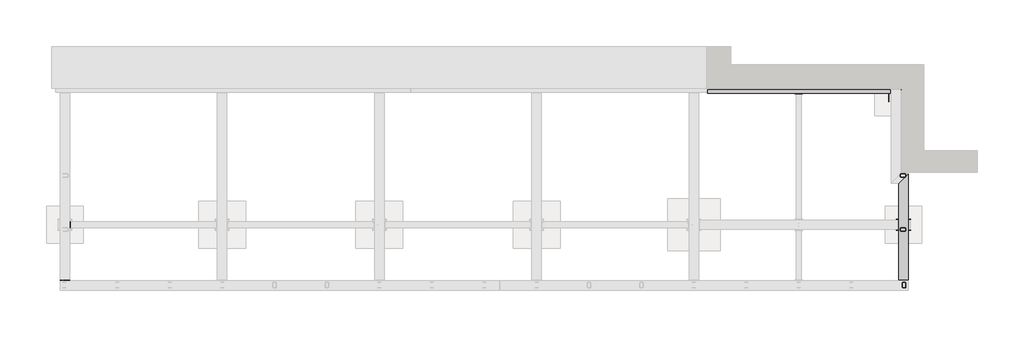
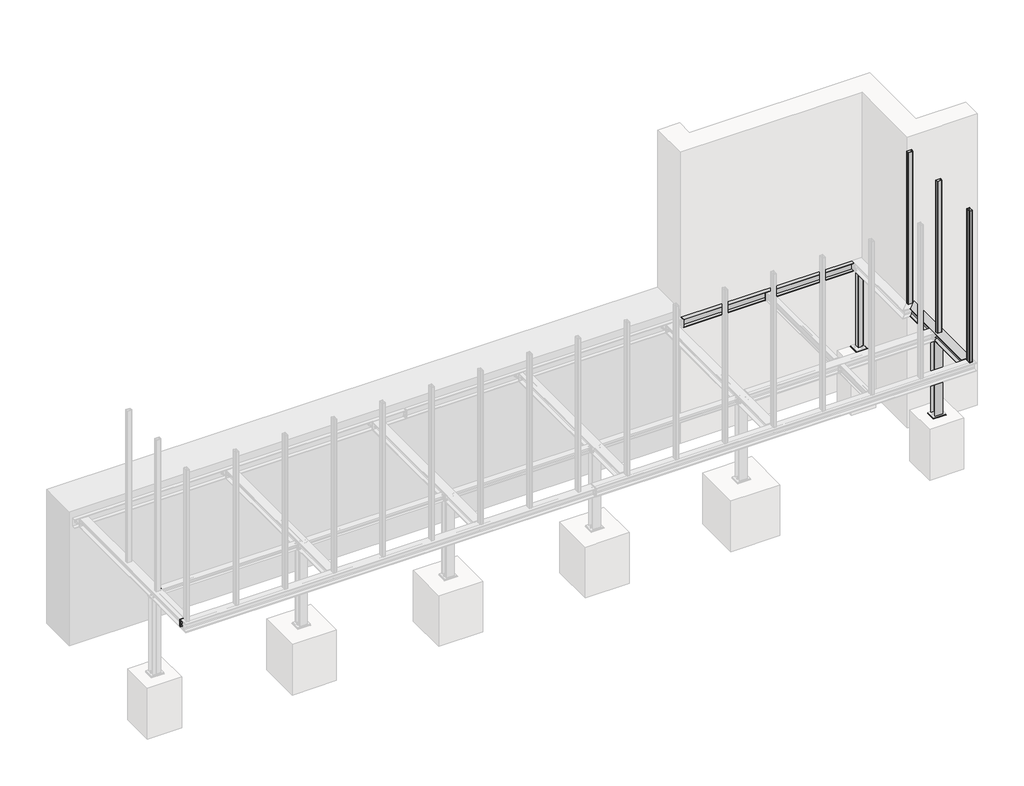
# One storey, part 3 of 31: 7 proxies, 5 columns, 4 plates, 2 beams.
"""IFC4 building model written with IfcOpenShell, lengths in millimetres."""

from ifc_helpers import new_model, si_unit, point, frame, frame_2d, origin, place, context, project, spatial, polyline, circle_curve, ellipse_curve, trimmed, segment, composite_curve, outline, extrude, faceted_brep, element, save
from ifc_brep_helpers import plane_surface, revolved_surface, advanced_brep

model = new_model("IFC4")

# Units and contexts
model_context = context("Model", 3, world=origin())
ifc_project = project(units=[si_unit("LENGTHUNIT", "METRE", prefix="MILLI")], contexts=[model_context])

# Site, building, storey
site = spatial("IfcSite", under=ifc_project)
building = spatial("IfcBuilding", under=site)
storey = spatial("IfcBuildingStorey", under=building, Name="Základy", Elevation=-1200.0)

# Beams
placement = place(None, origin())
element("IfcBeam", 1, ObjectType="HEB180", at=placement, inside=storey, context=model_context, shape_type="AdvancedBrep", body=[
    advanced_brep(
    [(16140.0, 210.0, -160.0), (15960.0, 210.0, -160.0), (15960.0, 210.0, -174.0), (16030.75, 210.0, -174.0), (16045.75, 210.0, -189.0), (16045.75, 210.0, -311.0), (16030.75, 210.0, -326.0), (15960.0, 210.0, -326.0), (15960.0, 210.0, -340.0), (16140.0, 210.0, -340.0), (16140.0, 210.0, -326.0), (16069.25, 210.0, -326.0), (16054.25, 210.0, -311.0), (16054.25, 210.0, -189.0), (16069.25, 210.0, -174.0), (16140.0, 210.0, -174.0), (16140.0, 2230.0, -160.0), (15960.0, 2050.0, -160.0), (15960.0, 2050.0, -174.0), (16030.75, 2120.75, -174.0), (16045.75, 2135.75, -189.0), (16045.75, 2135.75, -311.0), (16030.75, 2120.75, -326.0), (15960.0, 2050.0, -326.0), (15960.0, 2050.0, -340.0), (16140.0, 2230.0, -340.0), (16140.0, 2230.0, -326.0), (16069.25, 2159.25, -326.0), (16054.25, 2144.25, -311.0), (16054.25, 2144.25, -189.0), (16069.25, 2159.25, -174.0), (16140.0, 2230.0, -174.0)],
    [
        (0, 1),
        (1, 2),
        (2, 3),
        (3, 4, circle_curve(frame((16030.75, 210.0, -189.0), z_axis=(0.0, 1.0, 0.0), x_axis=(-1.0, 0.0, 0.0)), 15.0)),
        (4, 5),
        (5, 6, circle_curve(frame((16030.75, 210.0, -311.0), z_axis=(0.0, 1.0, 0.0), x_axis=(-1.0, 0.0, 0.0)), 15.0)),
        (6, 7),
        (7, 8),
        (8, 9),
        (9, 10),
        (10, 11),
        (11, 12, circle_curve(frame((16069.25, 210.0, -311.0), z_axis=(0.0, 1.0, 0.0), x_axis=(-1.0, 0.0, 0.0)), 15.0)),
        (12, 13),
        (13, 14, circle_curve(frame((16069.25, 210.0, -189.0), z_axis=(0.0, 1.0, 0.0), x_axis=(-1.0, 0.0, 0.0)), 15.0)),
        (14, 15),
        (15, 0),
        (0, 16),
        (16, 17),
        (17, 1),
        (17, 18),
        (18, 2),
        (18, 19),
        (19, 3),
        (19, 20, ellipse_curve(frame((16030.75, 2120.75, -189.0), z_axis=(-0.7071067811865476, 0.7071067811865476, 0.0), x_axis=(0.7071067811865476, 0.7071067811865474, 0.0)), 21.2132034, 15.0)),
        (20, 4),
        (20, 21),
        (21, 5),
        (21, 22, ellipse_curve(frame((16030.75, 2120.75, -311.0), z_axis=(-0.7071067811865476, 0.7071067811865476, 0.0), x_axis=(0.7071067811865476, 0.7071067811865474, 0.0)), 21.2132034, 15.0)),
        (22, 6),
        (22, 23),
        (23, 7),
        (23, 24),
        (24, 8),
        (24, 25),
        (25, 9),
        (25, 26),
        (26, 10),
        (26, 27),
        (27, 11),
        (27, 28, ellipse_curve(frame((16069.25, 2159.25, -311.0), z_axis=(-0.7071067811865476, 0.7071067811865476, 0.0), x_axis=(0.7071067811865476, 0.7071067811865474, 0.0)), 21.2132034, 15.0)),
        (28, 12),
        (28, 29),
        (29, 13),
        (29, 30, ellipse_curve(frame((16069.25, 2159.25, -189.0), z_axis=(-0.7071067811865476, 0.7071067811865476, 0.0), x_axis=(0.7071067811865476, 0.7071067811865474, 0.0)), 21.2132034, 15.0)),
        (30, 14),
        (30, 31),
        (31, 15),
        (31, 16),
    ],
    [
        plane_surface(frame((16050.0, 210.0, -250.0), z_axis=(0.0, -1.0, 0.0), x_axis=(0.0, 0.0, -1.0))),
        plane_surface(frame((16140.0, 210.0, -160.0), z_axis=(0.0, 0.0, 1.0), x_axis=(0.0, 1.0, 0.0))),
        plane_surface(frame((15960.0, 210.0, -160.0), z_axis=(-1.0, 0.0, 0.0), x_axis=(0.0, 1.0, 0.0))),
        plane_surface(frame((15960.0, 210.0, -174.0), z_axis=(0.0, 0.0, -1.0), x_axis=(0.0, 1.0, 0.0))),
        revolved_surface(polyline([(16015.75, 2135.75, -189.0), (16015.75, 210.0, -189.0)]), (16030.75, 2240.0, -189.0), (0.0, 1.0, 0.0)),
        plane_surface(frame((16045.75, 210.0, -189.0), z_axis=(-1.0, 0.0, 0.0), x_axis=(0.0, 1.0, 0.0))),
        revolved_surface(polyline([(16015.75, 2135.75, -311.0), (16015.75, 210.0, -311.0)]), (16030.75, 2240.0, -311.0), (0.0, 1.0, 0.0)),
        plane_surface(frame((16030.75, 210.0, -326.0), z_axis=(0.0, 0.0, 1.0), x_axis=(0.0, 1.0, 0.0))),
        plane_surface(frame((15960.0, 210.0, -326.0), z_axis=(-1.0, 0.0, 0.0), x_axis=(0.0, 1.0, 0.0))),
        plane_surface(frame((15960.0, 210.0, -340.0), z_axis=(0.0, 0.0, -1.0), x_axis=(0.0, 1.0, 0.0))),
        plane_surface(frame((16140.0, 210.0, -340.0), z_axis=(1.0, 0.0, 0.0), x_axis=(0.0, 1.0, 0.0))),
        plane_surface(frame((16140.0, 210.0, -326.0), z_axis=(0.0, 0.0, 1.0), x_axis=(0.0, 1.0, 0.0))),
        revolved_surface(polyline([(16054.25, 2174.2499999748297, -311.0), (16054.25, 210.0, -311.0)]), (16069.25, 2240.0, -311.0), (0.0, 1.0, 0.0)),
        plane_surface(frame((16054.25, 210.0, -311.0), z_axis=(1.0, 0.0, 0.0), x_axis=(0.0, 1.0, 0.0))),
        revolved_surface(polyline([(16054.25, 2174.2499999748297, -189.0), (16054.25, 210.0, -189.0)]), (16069.25, 2240.0, -189.0), (0.0, 1.0, 0.0)),
        plane_surface(frame((16069.25, 210.0, -174.0), z_axis=(0.0, 0.0, -1.0), x_axis=(0.0, 1.0, 0.0))),
        plane_surface(frame((16140.0, 210.0, -174.0), z_axis=(1.0, 0.0, 0.0), x_axis=(0.0, 1.0, 0.0))),
        plane_surface(frame((16150.0, 2240.0, -360.0), z_axis=(-0.7071067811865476, 0.7071067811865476, 0.0), x_axis=(0.7071067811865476, 0.7071067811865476, 0.0))),
    ],
    [
        (0, [[1, 2, 3, 4, 5, 6, 7, 8, 9, 10, 11, 12, 13, 14, 15, 16]]),
        (1, [[-1, 17, 18, 19]]),
        (2, [[-2, -19, 20, 21]]),
        (3, [[-3, -21, 22, 23]]),
        (4, [[-4, -23, 24, 25]]),
        (5, [[-5, -25, 26, 27]]),
        (6, [[-6, -27, 28, 29]]),
        (7, [[-7, -29, 30, 31]]),
        (8, [[-8, -31, 32, 33]]),
        (9, [[-9, -33, 34, 35]]),
        (10, [[-10, -35, 36, 37]]),
        (11, [[-11, -37, 38, 39]]),
        (12, [[-12, -39, 40, 41]]),
        (13, [[-13, -41, 42, 43]]),
        (14, [[-14, -43, 44, 45]]),
        (15, [[-15, -45, 46, 47]]),
        (16, [[-16, -47, 48, -17]]),
        (17, [[-18, -48, -46, -44, -42, -40, -38, -36, -34, -32, -30, -28, -26, -24, -22, -20]]),
    ],
),
])
element("IfcBeam", 2, ObjectType="UPE180", at=placement, inside=storey, context=model_context, shape_type="SweptSolid", body=[
    extrude(outline(polyline([(3840.0, -160.0), (3840.0, -340.0), (3765.0, -340.0), (3765.0, -329.5), (3834.5, -329.5), (3834.5, -170.5), (3765.0, -170.5), (3765.0, -160.0), (3840.0, -160.0)])), frame((12315.0, 0.0, 0.0), z_axis=(1.0, 0.0, 0.0), x_axis=(0.0, 1.0, 0.0)), (0.0, 0.0, 1.0), 3482.0),
])

# Proxies
element("IfcBuildingElementProxy", 3, Name="PLECH", ObjectType="PLECH", at=placement, inside=storey, context=model_context, shape_type="SweptSolid", body=[
    extrude(outline(polyline([(150.0, 1200.0), (150.0, 1320.0), (160.0, 1320.0), (160.0, 1200.0), (150.0, 1200.0)])), frame((0.0, 0.0, -299.0), z_axis=(0.0, 0.0, 1.0), x_axis=(1.0, 0.0, 0.0)), (0.0, 0.0, 1.0), 98.0),
])
element("IfcBuildingElementProxy", 4, Name="PLECH", ObjectType="PLECH", at=placement, inside=storey, context=model_context, shape_type="SweptSolid", body=[
    extrude(outline(polyline([(140.0, 1200.0), (140.0, 1320.0), (150.0, 1320.0), (150.0, 1200.0), (140.0, 1200.0)])), frame((0.0, 0.0, -332.0), z_axis=(0.0, 0.0, 1.0), x_axis=(1.0, 0.0, 0.0)), (0.0, 0.0, 1.0), 164.0),
])
element("IfcBuildingElementProxy", 5, Name="PLECH", ObjectType="PLECH", at=placement, inside=storey, context=model_context, shape_type="SweptSolid", body=[
    extrude(outline(composite_curve([segment(polyline([(-174.0, 140.0), (-174.0, 79.5)]), True, "CONTINUOUS"), segment(trimmed(circle_curve(frame_2d((-174.0, 54.5)), 25.0), [point((-174.0, 79.5))], [point((-199.0, 54.5))], True, "CARTESIAN"), True, "CONTINUOUS"), segment(polyline([(-199.0, 54.5), (-301.0, 54.5)]), True, "CONTINUOUS"), segment(trimmed(circle_curve(frame_2d((-326.0, 54.5)), 25.0), [point((-301.0, 54.5))], [point((-326.0, 79.5))], True, "CARTESIAN"), True, "CONTINUOUS"), segment(polyline([(-326.0, 79.5), (-326.0, 140.0), (-174.0, 140.0)]), True, "CONTINUOUS")], self_intersect=False)), frame((0.0, 1256.0, 0.0), z_axis=(0.0, 1.0, 0.0), x_axis=(0.0, 0.0, 1.0)), (0.0, 0.0, 1.0), 8.0),
])
element("IfcBuildingElementProxy", 6, Name="PLECH", ObjectType="PLECH", at=placement, inside=storey, context=model_context, shape_type="SweptSolid", body=[
    extrude(outline(polyline([(-40.0, 210.0), (140.0, 210.0), (140.0, 200.0), (-40.0, 200.0), (-40.0, 210.0)])), frame((0.0, 0.0, -332.0), z_axis=(0.0, 0.0, 1.0), x_axis=(1.0, 0.0, 0.0)), (0.0, 0.0, 1.0), 164.0),
])
element("IfcBuildingElementProxy", 7, Name="PLECH", ObjectType="PLECH", at=placement, inside=storey, context=model_context, shape_type="SweptSolid", body=[
    extrude(outline(composite_curve([segment(polyline([(190.0, -174.0), (190.0, -326.0), (124.25, -326.0)]), True, "CONTINUOUS"), segment(trimmed(circle_curve(frame_2d((104.25, -326.0)), 20.0), [point((124.25, -326.0))], [point((104.25, -306.0))], True, "CARTESIAN"), True, "CONTINUOUS"), segment(polyline([(104.25, -306.0), (104.25, -194.0)]), True, "CONTINUOUS"), segment(trimmed(circle_curve(frame_2d((104.25, -174.0)), 20.0), [point((104.25, -194.0))], [point((124.25, -174.0))], True, "CARTESIAN"), True, "CONTINUOUS"), segment(polyline([(124.25, -174.0), (190.0, -174.0)]), True, "CONTINUOUS")], self_intersect=False)), frame((46.0, 0.0, 0.0), z_axis=(1.0, 0.0, 0.0), x_axis=(0.0, 1.0, 0.0)), (0.0, 0.0, 1.0), 8.0),
])
element("IfcBuildingElementProxy", 8, Name="PLECH", ObjectType="PLECH", at=placement, inside=storey, context=model_context, shape_type="SweptSolid", body=[
    extrude(outline(polyline([(-40.0, 200.0), (140.0, 200.0), (140.0, 190.0), (-40.0, 190.0), (-40.0, 200.0)])), frame((0.0, 0.0, -332.0), z_axis=(0.0, 0.0, 1.0), x_axis=(1.0, 0.0, 0.0)), (0.0, 0.0, 1.0), 164.0),
])
element("IfcBuildingElementProxy", 9, Name="Bolt assembly", ObjectType="Bolt assembly", at=placement, inside=storey, context=model_context, shape_type="SweptSolid", body=[
    extrude(outline(composite_curve([segment(trimmed(circle_curve(frame_2d((-290.0, 5.0)), 9.0), [point((-290.0, 14.0))], [point((-290.0, -4.0))], False, "CARTESIAN"), True, "CONTINUOUS"), segment(trimmed(circle_curve(frame_2d((-290.0, 5.0)), 9.0), [point((-290.0, -4.0))], [point((-290.0, 14.0))], False, "CARTESIAN"), True, "CONTINUOUS")], self_intersect=False)), frame((0.0, 190.1, 0.0), z_axis=(0.0, 1.0, 0.0), x_axis=(0.0, 0.0, 1.0)), (0.0, 0.0, 1.0), 10.0),
    extrude(outline(polyline([(-290.0, 18.8564065), (-278.0, 11.9282032), (-278.0, -1.9282032), (-290.0, -8.8564065), (-302.0, -1.9282032), (-302.0, 11.9282032), (-290.0, 18.8564065)])), frame((0.0, 177.0, 0.0), z_axis=(0.0, 1.0, 0.0), x_axis=(0.0, 0.0, 1.0)), (0.0, 0.0, 1.0), 10.0),
    extrude(outline(composite_curve([segment(trimmed(circle_curve(frame_2d((-290.0, 5.0)), 8.0), [point((-290.0, 13.0))], [point((-290.0, -3.0))], False, "CARTESIAN"), True, "CONTINUOUS"), segment(trimmed(circle_curve(frame_2d((-290.0, 5.0)), 8.0), [point((-290.0, -3.0))], [point((-290.0, 13.0))], False, "CARTESIAN"), True, "CONTINUOUS")], self_intersect=False)), frame((0.0, 187.0, 0.0), z_axis=(0.0, 1.0, 0.0), x_axis=(0.0, 0.0, 1.0)), (0.0, 0.0, 1.0), 50.0),
    extrude(outline(composite_curve([segment(trimmed(circle_curve(frame_2d((-290.0, 5.0)), 15.0), [point((-290.0, 20.0))], [point((-290.0, -10.0))], False, "CARTESIAN"), True, "CONTINUOUS"), segment(trimmed(circle_curve(frame_2d((-290.0, 5.0)), 15.0), [point((-290.0, -10.0))], [point((-290.0, 20.0))], False, "CARTESIAN"), True, "CONTINUOUS")], self_intersect=False)), frame((0.0, 187.0, 0.0), z_axis=(0.0, 1.0, 0.0), x_axis=(0.0, 0.0, 1.0)), (0.0, 0.0, 1.0), 3.0),
    extrude(outline(composite_curve([segment(trimmed(circle_curve(frame_2d((-290.0, 5.0)), 15.0), [point((-290.0, 20.0))], [point((-290.0, -10.0))], False, "CARTESIAN"), True, "CONTINUOUS"), segment(trimmed(circle_curve(frame_2d((-290.0, 5.0)), 15.0), [point((-290.0, -10.0))], [point((-290.0, 20.0))], False, "CARTESIAN"), True, "CONTINUOUS")], self_intersect=False)), frame((0.0, 210.0, 0.0), z_axis=(0.0, 1.0, 0.0), x_axis=(0.0, 0.0, 1.0)), (0.0, 0.0, 1.0), 3.0),
    extrude(outline(polyline([(-290.0, 20.4441197), (-276.625, 12.7220599), (-276.625, -2.7220599), (-290.0, -10.4441197), (-303.375, -2.7220599), (-303.375, 12.7220599), (-290.0, 20.4441197)])), frame((0.0, 213.0, 0.0), z_axis=(0.0, 1.0, 0.0), x_axis=(0.0, 0.0, 1.0)), (0.0, 0.0, 1.0), 13.0),
    extrude(outline(composite_curve([segment(trimmed(circle_curve(frame_2d((-290.0, 5.0)), 9.0), [point((-290.0, 14.0))], [point((-290.0, -4.0))], False, "CARTESIAN"), True, "CONTINUOUS"), segment(trimmed(circle_curve(frame_2d((-290.0, 5.0)), 9.0), [point((-290.0, -4.0))], [point((-290.0, 14.0))], False, "CARTESIAN"), True, "CONTINUOUS")], self_intersect=False)), frame((0.0, 199.9, 0.0), z_axis=(0.0, 1.0, 0.0), x_axis=(0.0, 0.0, 1.0)), (0.0, 0.0, 1.0), 10.1),
    extrude(outline(composite_curve([segment(trimmed(circle_curve(frame_2d((-290.0, 95.0)), 9.0), [point((-290.0, 104.0))], [point((-290.0, 86.0))], False, "CARTESIAN"), True, "CONTINUOUS"), segment(trimmed(circle_curve(frame_2d((-290.0, 95.0)), 9.0), [point((-290.0, 86.0))], [point((-290.0, 104.0))], False, "CARTESIAN"), True, "CONTINUOUS")], self_intersect=False)), frame((0.0, 190.1, 0.0), z_axis=(0.0, 1.0, 0.0), x_axis=(0.0, 0.0, 1.0)), (0.0, 0.0, 1.0), 10.0),
    extrude(outline(polyline([(-290.0, 108.8564065), (-278.0, 101.9282032), (-278.0, 88.0717968), (-290.0, 81.1435935), (-302.0, 88.0717968), (-302.0, 101.9282032), (-290.0, 108.8564065)])), frame((0.0, 177.0, 0.0), z_axis=(0.0, 1.0, 0.0), x_axis=(0.0, 0.0, 1.0)), (0.0, 0.0, 1.0), 10.0),
    extrude(outline(composite_curve([segment(trimmed(circle_curve(frame_2d((-290.0, 95.0)), 8.0), [point((-290.0, 103.0))], [point((-290.0, 87.0))], False, "CARTESIAN"), True, "CONTINUOUS"), segment(trimmed(circle_curve(frame_2d((-290.0, 95.0)), 8.0), [point((-290.0, 87.0))], [point((-290.0, 103.0))], False, "CARTESIAN"), True, "CONTINUOUS")], self_intersect=False)), frame((0.0, 187.0, 0.0), z_axis=(0.0, 1.0, 0.0), x_axis=(0.0, 0.0, 1.0)), (0.0, 0.0, 1.0), 50.0),
    extrude(outline(composite_curve([segment(trimmed(circle_curve(frame_2d((-290.0, 95.0)), 15.0), [point((-290.0, 110.0))], [point((-290.0, 80.0))], False, "CARTESIAN"), True, "CONTINUOUS"), segment(trimmed(circle_curve(frame_2d((-290.0, 95.0)), 15.0), [point((-290.0, 80.0))], [point((-290.0, 110.0))], False, "CARTESIAN"), True, "CONTINUOUS")], self_intersect=False)), frame((0.0, 187.0, 0.0), z_axis=(0.0, 1.0, 0.0), x_axis=(0.0, 0.0, 1.0)), (0.0, 0.0, 1.0), 3.0),
    extrude(outline(composite_curve([segment(trimmed(circle_curve(frame_2d((-290.0, 95.0)), 15.0), [point((-290.0, 110.0))], [point((-290.0, 80.0))], False, "CARTESIAN"), True, "CONTINUOUS"), segment(trimmed(circle_curve(frame_2d((-290.0, 95.0)), 15.0), [point((-290.0, 80.0))], [point((-290.0, 110.0))], False, "CARTESIAN"), True, "CONTINUOUS")], self_intersect=False)), frame((0.0, 210.0, 0.0), z_axis=(0.0, 1.0, 0.0), x_axis=(0.0, 0.0, 1.0)), (0.0, 0.0, 1.0), 3.0),
    extrude(outline(polyline([(-290.0, 110.4441197), (-276.625, 102.7220599), (-276.625, 87.2779401), (-290.0, 79.5558803), (-303.375, 87.2779401), (-303.375, 102.7220599), (-290.0, 110.4441197)])), frame((0.0, 213.0, 0.0), z_axis=(0.0, 1.0, 0.0), x_axis=(0.0, 0.0, 1.0)), (0.0, 0.0, 1.0), 13.0),
    extrude(outline(composite_curve([segment(trimmed(circle_curve(frame_2d((-290.0, 95.0)), 9.0), [point((-290.0, 104.0))], [point((-290.0, 86.0))], False, "CARTESIAN"), True, "CONTINUOUS"), segment(trimmed(circle_curve(frame_2d((-290.0, 95.0)), 9.0), [point((-290.0, 86.0))], [point((-290.0, 104.0))], False, "CARTESIAN"), True, "CONTINUOUS")], self_intersect=False)), frame((0.0, 199.9, 0.0), z_axis=(0.0, 1.0, 0.0), x_axis=(0.0, 0.0, 1.0)), (0.0, 0.0, 1.0), 10.1),
    extrude(outline(composite_curve([segment(trimmed(circle_curve(frame_2d((-210.0, 5.0)), 9.0), [point((-210.0, 14.0))], [point((-210.0, -4.0))], False, "CARTESIAN"), True, "CONTINUOUS"), segment(trimmed(circle_curve(frame_2d((-210.0, 5.0)), 9.0), [point((-210.0, -4.0))], [point((-210.0, 14.0))], False, "CARTESIAN"), True, "CONTINUOUS")], self_intersect=False)), frame((0.0, 190.1, 0.0), z_axis=(0.0, 1.0, 0.0), x_axis=(0.0, 0.0, 1.0)), (0.0, 0.0, 1.0), 10.0),
    extrude(outline(polyline([(-210.0, 18.8564065), (-198.0, 11.9282032), (-198.0, -1.9282032), (-210.0, -8.8564065), (-222.0, -1.9282032), (-222.0, 11.9282032), (-210.0, 18.8564065)])), frame((0.0, 177.0, 0.0), z_axis=(0.0, 1.0, 0.0), x_axis=(0.0, 0.0, 1.0)), (0.0, 0.0, 1.0), 10.0),
    extrude(outline(composite_curve([segment(trimmed(circle_curve(frame_2d((-210.0, 5.0)), 8.0), [point((-210.0, 13.0))], [point((-210.0, -3.0))], False, "CARTESIAN"), True, "CONTINUOUS"), segment(trimmed(circle_curve(frame_2d((-210.0, 5.0)), 8.0), [point((-210.0, -3.0))], [point((-210.0, 13.0))], False, "CARTESIAN"), True, "CONTINUOUS")], self_intersect=False)), frame((0.0, 187.0, 0.0), z_axis=(0.0, 1.0, 0.0), x_axis=(0.0, 0.0, 1.0)), (0.0, 0.0, 1.0), 50.0),
    extrude(outline(composite_curve([segment(trimmed(circle_curve(frame_2d((-210.0, 5.0)), 15.0), [point((-210.0, 20.0))], [point((-210.0, -10.0))], False, "CARTESIAN"), True, "CONTINUOUS"), segment(trimmed(circle_curve(frame_2d((-210.0, 5.0)), 15.0), [point((-210.0, -10.0))], [point((-210.0, 20.0))], False, "CARTESIAN"), True, "CONTINUOUS")], self_intersect=False)), frame((0.0, 187.0, 0.0), z_axis=(0.0, 1.0, 0.0), x_axis=(0.0, 0.0, 1.0)), (0.0, 0.0, 1.0), 3.0),
    extrude(outline(composite_curve([segment(trimmed(circle_curve(frame_2d((-210.0, 5.0)), 15.0), [point((-210.0, 20.0))], [point((-210.0, -10.0))], False, "CARTESIAN"), True, "CONTINUOUS"), segment(trimmed(circle_curve(frame_2d((-210.0, 5.0)), 15.0), [point((-210.0, -10.0))], [point((-210.0, 20.0))], False, "CARTESIAN"), True, "CONTINUOUS")], self_intersect=False)), frame((0.0, 210.0, 0.0), z_axis=(0.0, 1.0, 0.0), x_axis=(0.0, 0.0, 1.0)), (0.0, 0.0, 1.0), 3.0),
    extrude(outline(polyline([(-210.0, 20.4441197), (-196.625, 12.7220599), (-196.625, -2.7220599), (-210.0, -10.4441197), (-223.375, -2.7220599), (-223.375, 12.7220599), (-210.0, 20.4441197)])), frame((0.0, 213.0, 0.0), z_axis=(0.0, 1.0, 0.0), x_axis=(0.0, 0.0, 1.0)), (0.0, 0.0, 1.0), 13.0),
    extrude(outline(composite_curve([segment(trimmed(circle_curve(frame_2d((-210.0, 5.0)), 9.0), [point((-210.0, 14.0))], [point((-210.0, -4.0))], False, "CARTESIAN"), True, "CONTINUOUS"), segment(trimmed(circle_curve(frame_2d((-210.0, 5.0)), 9.0), [point((-210.0, -4.0))], [point((-210.0, 14.0))], False, "CARTESIAN"), True, "CONTINUOUS")], self_intersect=False)), frame((0.0, 199.9, 0.0), z_axis=(0.0, 1.0, 0.0), x_axis=(0.0, 0.0, 1.0)), (0.0, 0.0, 1.0), 10.1),
    extrude(outline(composite_curve([segment(trimmed(circle_curve(frame_2d((-210.0, 95.0)), 9.0), [point((-210.0, 104.0))], [point((-210.0, 86.0))], False, "CARTESIAN"), True, "CONTINUOUS"), segment(trimmed(circle_curve(frame_2d((-210.0, 95.0)), 9.0), [point((-210.0, 86.0))], [point((-210.0, 104.0))], False, "CARTESIAN"), True, "CONTINUOUS")], self_intersect=False)), frame((0.0, 190.1, 0.0), z_axis=(0.0, 1.0, 0.0), x_axis=(0.0, 0.0, 1.0)), (0.0, 0.0, 1.0), 10.0),
    extrude(outline(polyline([(-210.0, 108.8564065), (-198.0, 101.9282032), (-198.0, 88.0717968), (-210.0, 81.1435935), (-222.0, 88.0717968), (-222.0, 101.9282032), (-210.0, 108.8564065)])), frame((0.0, 177.0, 0.0), z_axis=(0.0, 1.0, 0.0), x_axis=(0.0, 0.0, 1.0)), (0.0, 0.0, 1.0), 10.0),
    extrude(outline(composite_curve([segment(trimmed(circle_curve(frame_2d((-210.0, 95.0)), 8.0), [point((-210.0, 103.0))], [point((-210.0, 87.0))], False, "CARTESIAN"), True, "CONTINUOUS"), segment(trimmed(circle_curve(frame_2d((-210.0, 95.0)), 8.0), [point((-210.0, 87.0))], [point((-210.0, 103.0))], False, "CARTESIAN"), True, "CONTINUOUS")], self_intersect=False)), frame((0.0, 187.0, 0.0), z_axis=(0.0, 1.0, 0.0), x_axis=(0.0, 0.0, 1.0)), (0.0, 0.0, 1.0), 50.0),
    extrude(outline(composite_curve([segment(trimmed(circle_curve(frame_2d((-210.0, 95.0)), 15.0), [point((-210.0, 110.0))], [point((-210.0, 80.0))], False, "CARTESIAN"), True, "CONTINUOUS"), segment(trimmed(circle_curve(frame_2d((-210.0, 95.0)), 15.0), [point((-210.0, 80.0))], [point((-210.0, 110.0))], False, "CARTESIAN"), True, "CONTINUOUS")], self_intersect=False)), frame((0.0, 187.0, 0.0), z_axis=(0.0, 1.0, 0.0), x_axis=(0.0, 0.0, 1.0)), (0.0, 0.0, 1.0), 3.0),
    extrude(outline(composite_curve([segment(trimmed(circle_curve(frame_2d((-210.0, 95.0)), 15.0), [point((-210.0, 110.0))], [point((-210.0, 80.0))], False, "CARTESIAN"), True, "CONTINUOUS"), segment(trimmed(circle_curve(frame_2d((-210.0, 95.0)), 15.0), [point((-210.0, 80.0))], [point((-210.0, 110.0))], False, "CARTESIAN"), True, "CONTINUOUS")], self_intersect=False)), frame((0.0, 210.0, 0.0), z_axis=(0.0, 1.0, 0.0), x_axis=(0.0, 0.0, 1.0)), (0.0, 0.0, 1.0), 3.0),
    extrude(outline(polyline([(-210.0, 110.4441197), (-196.625, 102.7220599), (-196.625, 87.2779401), (-210.0, 79.5558803), (-223.375, 87.2779401), (-223.375, 102.7220599), (-210.0, 110.4441197)])), frame((0.0, 213.0, 0.0), z_axis=(0.0, 1.0, 0.0), x_axis=(0.0, 0.0, 1.0)), (0.0, 0.0, 1.0), 13.0),
    extrude(outline(composite_curve([segment(trimmed(circle_curve(frame_2d((-210.0, 95.0)), 9.0), [point((-210.0, 104.0))], [point((-210.0, 86.0))], False, "CARTESIAN"), True, "CONTINUOUS"), segment(trimmed(circle_curve(frame_2d((-210.0, 95.0)), 9.0), [point((-210.0, 86.0))], [point((-210.0, 104.0))], False, "CARTESIAN"), True, "CONTINUOUS")], self_intersect=False)), frame((0.0, 199.9, 0.0), z_axis=(0.0, 1.0, 0.0), x_axis=(0.0, 0.0, 1.0)), (0.0, 0.0, 1.0), 10.1),
])

# Columns
element("IfcColumn", 10, ObjectType="RHS100*60*3.2", at=placement, inside=storey, context=model_context, shape_type="SweptSolid", body=[
    extrude(outline(composite_curve([segment(polyline([(16090.0, 1193.6), (16090.0, 1146.4)]), True, "CONTINUOUS"), segment(trimmed(circle_curve(frame_2d((16083.6, 1146.4)), 6.4), [point((16090.0, 1146.4))], [point((16083.6, 1140.0))], False, "CARTESIAN"), True, "CONTINUOUS"), segment(polyline([(16083.6, 1140.0), (15996.4, 1140.0)]), True, "CONTINUOUS"), segment(trimmed(circle_curve(frame_2d((15996.4, 1146.4)), 6.4), [point((15996.4, 1140.0))], [point((15990.0, 1146.4))], False, "CARTESIAN"), True, "CONTINUOUS"), segment(polyline([(15990.0, 1146.4), (15990.0, 1193.6)]), True, "CONTINUOUS"), segment(trimmed(circle_curve(frame_2d((15996.4, 1193.6)), 6.4), [point((15990.0, 1193.6))], [point((15996.4, 1200.0))], False, "CARTESIAN"), True, "CONTINUOUS"), segment(polyline([(15996.4, 1200.0), (16083.6, 1200.0)]), True, "CONTINUOUS"), segment(trimmed(circle_curve(frame_2d((16083.6, 1193.6)), 6.4), [point((16083.6, 1200.0))], [point((16090.0, 1193.6))], False, "CARTESIAN"), True, "CONTINUOUS")], self_intersect=False), holes=[composite_curve([segment(trimmed(circle_curve(frame_2d((16083.6, 1193.6)), 3.2), [point((16086.8, 1193.6))], [point((16083.6, 1196.8))], True, "CARTESIAN"), True, "CONTINUOUS"), segment(polyline([(16083.6, 1196.8), (15996.4, 1196.8)]), True, "CONTINUOUS"), segment(trimmed(circle_curve(frame_2d((15996.4, 1193.6)), 3.2), [point((15996.4, 1196.8))], [point((15993.2, 1193.6))], True, "CARTESIAN"), True, "CONTINUOUS"), segment(polyline([(15993.2, 1193.6), (15993.2, 1146.4)]), True, "CONTINUOUS"), segment(trimmed(circle_curve(frame_2d((15996.4, 1146.4)), 3.2), [point((15993.2, 1146.4))], [point((15996.4, 1143.2))], True, "CARTESIAN"), True, "CONTINUOUS"), segment(polyline([(15996.4, 1143.2), (16083.6, 1143.2)]), True, "CONTINUOUS"), segment(trimmed(circle_curve(frame_2d((16083.6, 1146.4)), 3.2), [point((16083.6, 1143.2))], [point((16086.8, 1146.4))], True, "CARTESIAN"), True, "CONTINUOUS"), segment(polyline([(16086.8, 1146.4), (16086.8, 1193.6)]), True, "CONTINUOUS")], self_intersect=False)]), frame((0.0, 0.0, -160.0), z_axis=(0.0, 0.0, 1.0), x_axis=(1.0, 0.0, 0.0)), (0.0, 0.0, 1.0), 3280.0),
])
element("IfcColumn", 11, ObjectType="RHS100*60*3.2", at=placement, inside=storey, context=model_context, shape_type="SweptSolid", body=[
    extrude(outline(composite_curve([segment(polyline([(16036.4, 160.0), (16083.6, 160.0)]), True, "CONTINUOUS"), segment(trimmed(circle_curve(frame_2d((16083.6, 153.6)), 6.4), [point((16083.6, 160.0))], [point((16090.0, 153.6))], False, "CARTESIAN"), True, "CONTINUOUS"), segment(polyline([(16090.0, 153.6), (16090.0, 66.4)]), True, "CONTINUOUS"), segment(trimmed(circle_curve(frame_2d((16083.6, 66.4)), 6.4), [point((16090.0, 66.4))], [point((16083.6, 60.0))], False, "CARTESIAN"), True, "CONTINUOUS"), segment(polyline([(16083.6, 60.0), (16036.4, 60.0)]), True, "CONTINUOUS"), segment(trimmed(circle_curve(frame_2d((16036.4, 66.4)), 6.4), [point((16036.4, 60.0))], [point((16030.0, 66.4))], False, "CARTESIAN"), True, "CONTINUOUS"), segment(polyline([(16030.0, 66.4), (16030.0, 153.6)]), True, "CONTINUOUS"), segment(trimmed(circle_curve(frame_2d((16036.4, 153.6)), 6.4), [point((16030.0, 153.6))], [point((16036.4, 160.0))], False, "CARTESIAN"), True, "CONTINUOUS")], self_intersect=False), holes=[composite_curve([segment(trimmed(circle_curve(frame_2d((16036.4, 153.6)), 3.2), [point((16036.4, 156.8))], [point((16033.2, 153.6))], True, "CARTESIAN"), True, "CONTINUOUS"), segment(polyline([(16033.2, 153.6), (16033.2, 66.4)]), True, "CONTINUOUS"), segment(trimmed(circle_curve(frame_2d((16036.4, 66.4)), 3.2), [point((16033.2, 66.4))], [point((16036.4, 63.2))], True, "CARTESIAN"), True, "CONTINUOUS"), segment(polyline([(16036.4, 63.2), (16083.6, 63.2)]), True, "CONTINUOUS"), segment(trimmed(circle_curve(frame_2d((16083.6, 66.4)), 3.2), [point((16083.6, 63.2))], [point((16086.8, 66.4))], True, "CARTESIAN"), True, "CONTINUOUS"), segment(polyline([(16086.8, 66.4), (16086.8, 153.6)]), True, "CONTINUOUS"), segment(trimmed(circle_curve(frame_2d((16083.6, 153.6)), 3.2), [point((16086.8, 153.6))], [point((16083.6, 156.8))], True, "CARTESIAN"), True, "CONTINUOUS"), segment(polyline([(16083.6, 156.8), (16036.4, 156.8)]), True, "CONTINUOUS")], self_intersect=False)]), frame((0.0, 0.0, -160.0), z_axis=(0.0, 0.0, 1.0), x_axis=(1.0, 0.0, 0.0)), (0.0, 0.0, 1.0), 3280.0),
])
element("IfcColumn", 12, ObjectType="SHS100*5", at=placement, inside=storey, context=model_context, shape_type="SweptSolid", body=[
    extrude(outline(composite_curve([segment(polyline([(15945.0, 3700.0), (15865.0, 3700.0)]), True, "CONTINUOUS"), segment(trimmed(circle_curve(frame_2d((15865.0, 3710.0)), 10.0), [point((15865.0, 3700.0))], [point((15855.0, 3710.0))], False, "CARTESIAN"), True, "CONTINUOUS"), segment(polyline([(15855.0, 3710.0), (15855.0, 3790.0)]), True, "CONTINUOUS"), segment(trimmed(circle_curve(frame_2d((15865.0, 3790.0)), 10.0), [point((15855.0, 3790.0))], [point((15865.0, 3800.0))], False, "CARTESIAN"), True, "CONTINUOUS"), segment(polyline([(15865.0, 3800.0), (15945.0, 3800.0)]), True, "CONTINUOUS"), segment(trimmed(circle_curve(frame_2d((15945.0, 3790.0)), 10.0), [point((15945.0, 3800.0))], [point((15955.0, 3790.0))], False, "CARTESIAN"), True, "CONTINUOUS"), segment(polyline([(15955.0, 3790.0), (15955.0, 3710.0)]), True, "CONTINUOUS"), segment(trimmed(circle_curve(frame_2d((15945.0, 3710.0)), 10.0), [point((15955.0, 3710.0))], [point((15945.0, 3700.0))], False, "CARTESIAN"), True, "CONTINUOUS")], self_intersect=False), holes=[composite_curve([segment(trimmed(circle_curve(frame_2d((15945.0, 3710.0)), 5.0), [point((15945.0, 3705.0))], [point((15950.0, 3710.0))], True, "CARTESIAN"), True, "CONTINUOUS"), segment(polyline([(15950.0, 3710.0), (15950.0, 3790.0)]), True, "CONTINUOUS"), segment(trimmed(circle_curve(frame_2d((15945.0, 3790.0)), 5.0), [point((15950.0, 3790.0))], [point((15945.0, 3795.0))], True, "CARTESIAN"), True, "CONTINUOUS"), segment(polyline([(15945.0, 3795.0), (15865.0, 3795.0)]), True, "CONTINUOUS"), segment(trimmed(circle_curve(frame_2d((15865.0, 3790.0)), 5.0), [point((15865.0, 3795.0))], [point((15860.0, 3790.0))], True, "CARTESIAN"), True, "CONTINUOUS"), segment(polyline([(15860.0, 3790.0), (15860.0, 3710.0)]), True, "CONTINUOUS"), segment(trimmed(circle_curve(frame_2d((15865.0, 3710.0)), 5.0), [point((15860.0, 3710.0))], [point((15865.0, 3705.0))], True, "CARTESIAN"), True, "CONTINUOUS"), segment(polyline([(15865.0, 3705.0), (15945.0, 3705.0)]), True, "CONTINUOUS")], self_intersect=False)]), frame((0.0, 0.0, -1975.0), z_axis=(0.0, 0.0, 1.0), x_axis=(1.0, 0.0, 0.0)), (0.0, 0.0, 1.0), 1625.0),
])
element("IfcColumn", 13, ObjectType="RHS100*60*3.2", at=placement, inside=storey, context=model_context, shape_type="SweptSolid", body=[
    extrude(outline(composite_curve([segment(polyline([(16090.0, 2223.6), (16090.0, 2176.4)]), True, "CONTINUOUS"), segment(trimmed(circle_curve(frame_2d((16083.6, 2176.4)), 6.4), [point((16090.0, 2176.4))], [point((16083.6, 2170.0))], False, "CARTESIAN"), True, "CONTINUOUS"), segment(polyline([(16083.6, 2170.0), (15996.4, 2170.0)]), True, "CONTINUOUS"), segment(trimmed(circle_curve(frame_2d((15996.4, 2176.4)), 6.4), [point((15996.4, 2170.0))], [point((15990.0, 2176.4))], False, "CARTESIAN"), True, "CONTINUOUS"), segment(polyline([(15990.0, 2176.4), (15990.0, 2223.6)]), True, "CONTINUOUS"), segment(trimmed(circle_curve(frame_2d((15996.4, 2223.6)), 6.4), [point((15990.0, 2223.6))], [point((15996.4, 2230.0))], False, "CARTESIAN"), True, "CONTINUOUS"), segment(polyline([(15996.4, 2230.0), (16083.6, 2230.0)]), True, "CONTINUOUS"), segment(trimmed(circle_curve(frame_2d((16083.6, 2223.6)), 6.4), [point((16083.6, 2230.0))], [point((16090.0, 2223.6))], False, "CARTESIAN"), True, "CONTINUOUS")], self_intersect=False), holes=[composite_curve([segment(trimmed(circle_curve(frame_2d((16083.6, 2223.6)), 3.2), [point((16086.8, 2223.6))], [point((16083.6, 2226.8))], True, "CARTESIAN"), True, "CONTINUOUS"), segment(polyline([(16083.6, 2226.8), (15996.4, 2226.8)]), True, "CONTINUOUS"), segment(trimmed(circle_curve(frame_2d((15996.4, 2223.6)), 3.2), [point((15996.4, 2226.8))], [point((15993.2, 2223.6))], True, "CARTESIAN"), True, "CONTINUOUS"), segment(polyline([(15993.2, 2223.6), (15993.2, 2176.4)]), True, "CONTINUOUS"), segment(trimmed(circle_curve(frame_2d((15996.4, 2176.4)), 3.2), [point((15993.2, 2176.4))], [point((15996.4, 2173.2))], True, "CARTESIAN"), True, "CONTINUOUS"), segment(polyline([(15996.4, 2173.2), (16083.6, 2173.2)]), True, "CONTINUOUS"), segment(trimmed(circle_curve(frame_2d((16083.6, 2176.4)), 3.2), [point((16083.6, 2173.2))], [point((16086.8, 2176.4))], True, "CARTESIAN"), True, "CONTINUOUS"), segment(polyline([(16086.8, 2176.4), (16086.8, 2223.6)]), True, "CONTINUOUS")], self_intersect=False)]), frame((0.0, 0.0, -160.0), z_axis=(0.0, 0.0, 1.0), x_axis=(1.0, 0.0, 0.0)), (0.0, 0.0, 1.0), 3280.0),
])
element("IfcColumn", 14, ObjectType="HEA160", at=placement, inside=storey, context=model_context, shape_type="SweptSolid", body=[
    extrude(outline(composite_curve([segment(polyline([(16130.0, 1184.0), (15970.0, 1184.0), (15970.0, 1193.0), (16032.0, 1193.0)]), True, "CONTINUOUS"), segment(trimmed(circle_curve(frame_2d((16032.0, 1208.0)), 15.0), [point((16032.0, 1193.0))], [point((16047.0, 1208.0))], True, "CARTESIAN"), True, "CONTINUOUS"), segment(polyline([(16047.0, 1208.0), (16047.0, 1312.0)]), True, "CONTINUOUS"), segment(trimmed(circle_curve(frame_2d((16032.0, 1312.0)), 15.0), [point((16047.0, 1312.0))], [point((16032.0, 1327.0))], True, "CARTESIAN"), True, "CONTINUOUS"), segment(polyline([(16032.0, 1327.0), (15970.0, 1327.0), (15970.0, 1336.0), (16130.0, 1336.0), (16130.0, 1327.0), (16068.0, 1327.0)]), True, "CONTINUOUS"), segment(trimmed(circle_curve(frame_2d((16068.0, 1312.0)), 15.0), [point((16068.0, 1327.0))], [point((16053.0, 1312.0))], True, "CARTESIAN"), True, "CONTINUOUS"), segment(polyline([(16053.0, 1312.0), (16053.0, 1208.0)]), True, "CONTINUOUS"), segment(trimmed(circle_curve(frame_2d((16068.0, 1208.0)), 15.0), [point((16053.0, 1208.0))], [point((16068.0, 1193.0))], True, "CARTESIAN"), True, "CONTINUOUS"), segment(polyline([(16068.0, 1193.0), (16130.0, 1193.0), (16130.0, 1184.0)]), True, "CONTINUOUS")], self_intersect=False)), frame((0.0, 0.0, -1975.0), z_axis=(0.0, 0.0, 1.0), x_axis=(1.0, 0.0, 0.0)), (0.0, 0.0, 1.0), 1625.0),
])

# Plates
element("IfcPlate", 15, ObjectType="PL8*70", at=placement, inside=storey, context=model_context, shape_type="SweptSolid", body=[
    extrude(outline(composite_curve([segment(polyline([(3765.0, -174.0), (3814.5, -174.0)]), True, "CONTINUOUS"), segment(trimmed(circle_curve(frame_2d((3834.5, -174.0)), 20.0), [point((3814.5, -174.0))], [point((3834.5, -194.0))], True, "CARTESIAN"), True, "CONTINUOUS"), segment(polyline([(3834.5, -194.0), (3834.5, -306.0)]), True, "CONTINUOUS"), segment(trimmed(circle_curve(frame_2d((3834.5, -326.0)), 20.0), [point((3834.5, -306.0))], [point((3814.5, -326.0))], True, "CARTESIAN"), True, "CONTINUOUS"), segment(polyline([(3814.5, -326.0), (3765.0, -326.0), (3765.0, -174.0)]), True, "CONTINUOUS")], self_intersect=False)), frame((14046.0, 0.0, 0.0), z_axis=(1.0, 0.0, 0.0), x_axis=(0.0, 1.0, 0.0)), (0.0, 0.0, 1.0), 8.0),
])
element("IfcPlate", 16, ObjectType="PL10*130", at=placement, inside=storey, context=model_context, shape_type="SweptSolid", body=[
    extrude(outline(polyline([(13985.0, 3765.0), (14115.0, 3765.0), (14115.0, 3755.0), (13985.0, 3755.0), (13985.0, 3765.0)])), frame((0.0, 0.0, -332.0), z_axis=(0.0, 0.0, 1.0), x_axis=(1.0, 0.0, 0.0)), (0.0, 0.0, 1.0), 164.0),
])
element("IfcPlate", 17, ObjectType="PL10*212", at=placement, inside=storey, context=model_context, shape_type="Brep", body=[
    faceted_brep([(15925.0, 1356.0, -1990.0), (15925.0, 1164.0, -1990.0), (16175.0, 1164.0, -1990.0), (16175.0, 1356.0, -1990.0), (16185.0, 1154.0, -2000.0), (15915.0, 1154.0, -2000.0), (15915.0, 1366.0, -2000.0), (16185.0, 1366.0, -2000.0)], [[[0, 1, 2, 3]], [[4, 5, 6, 7]], [[5, 4, 2, 1]], [[1, 0, 6, 5]], [[7, 6, 0, 3]], [[3, 2, 4, 7]]]),
])
element("IfcPlate", 18, ObjectType="PL10*230", at=placement, inside=storey, context=model_context, shape_type="Brep", body=[
    faceted_brep([(15775.0, 3830.0, -1990.0), (15775.0, 3620.0, -1990.0), (15995.0, 3620.0, -1990.0), (15995.0, 3830.0, -1990.0), (16005.0, 3610.0, -2000.0), (15765.0, 3610.0, -2000.0), (15765.0, 3840.0, -2000.0), (16005.0, 3840.0, -2000.0)], [[[0, 1, 2, 3]], [[4, 5, 6, 7]], [[5, 4, 2, 1]], [[1, 0, 6, 5]], [[7, 6, 0, 3]], [[3, 2, 4, 7]]]),
])

save(model, "model.ifc")
